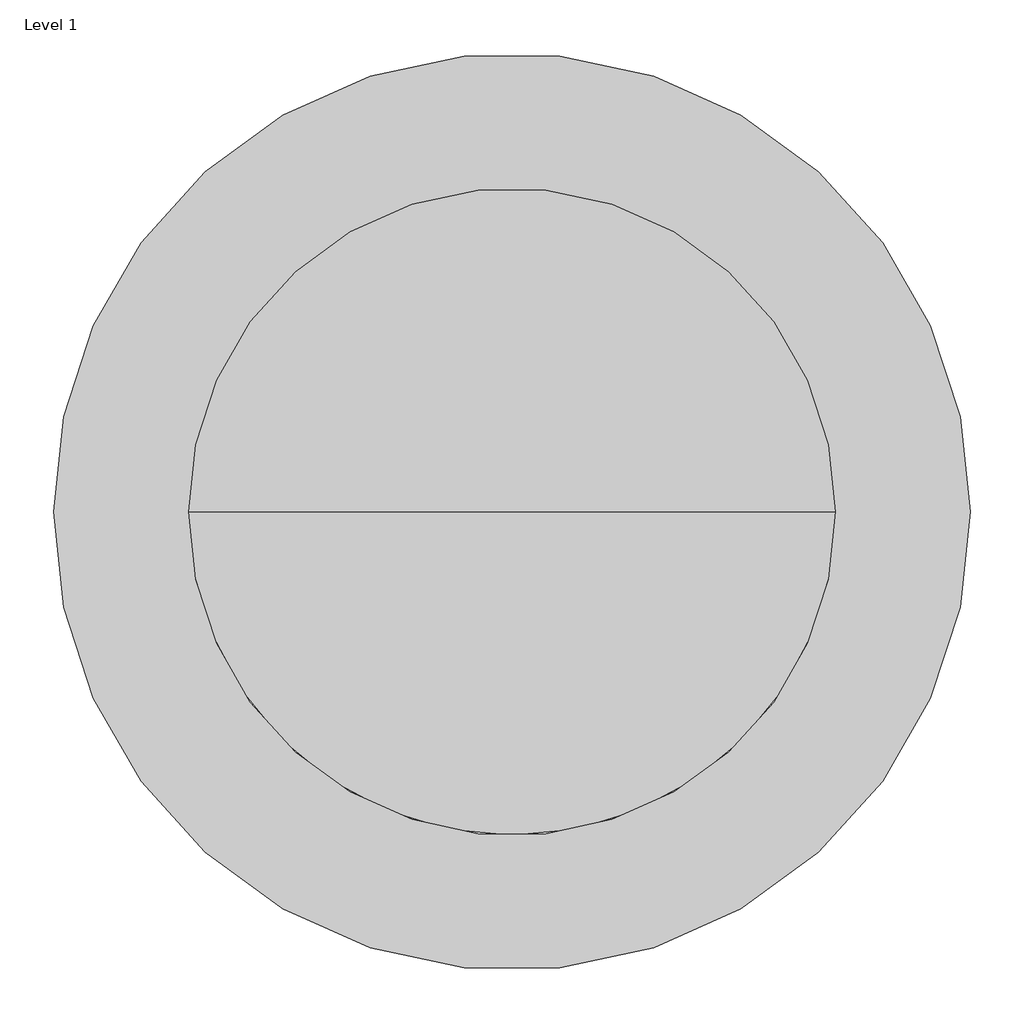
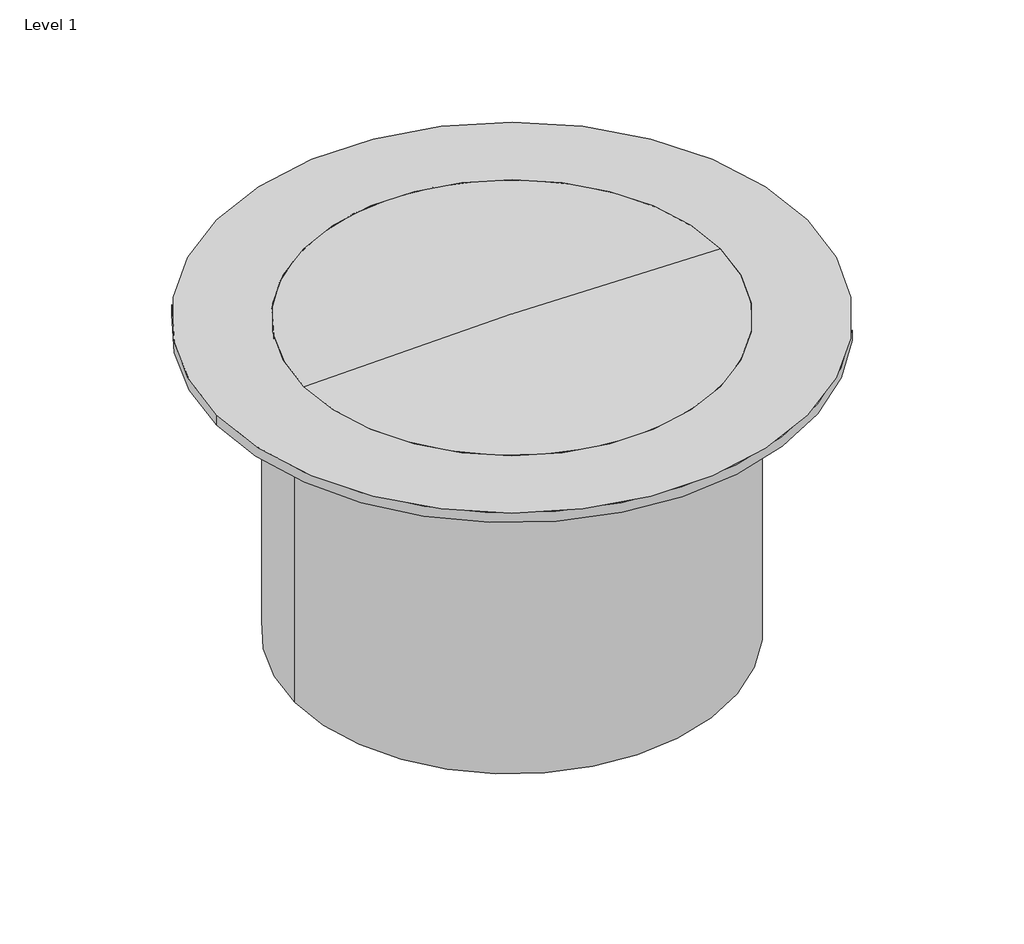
# One storey: 1 proxy.
"""IFC4 building model written with IfcOpenShell, lengths in millimetres."""

from ifc_helpers import new_model, si_unit, origin, place, context, project, spatial, transform, mapped, element, save
from components import specialty_equipment_5184973a

model = new_model("IFC4")

# Units and contexts
model_context = context("Model", 3, world=origin())
ifc_project = project(units=[si_unit("LENGTHUNIT", "METRE", prefix="MILLI")], contexts=[model_context])

# Site, building, storey
site = spatial("IfcSite", under=ifc_project)
building = spatial("IfcBuilding", under=site)
storey = spatial("IfcBuildingStorey", under=building, Name="Level 1", Elevation=2010.0)

# Proxy
placement = place(None, origin())
specialty_equipment_shape = specialty_equipment_5184973a(model_context)
element("IfcBuildingElementProxy", 1, Name="GRAF Tele Dome 600 Maxi : 600 Maxi", ObjectType="GRAF Tele Dome 600 Maxi : 600 Maxi", at=placement, inside=storey, context=model_context, shape_type="MappedRepresentation", body=[
    mapped(specialty_equipment_shape, transform((5829.8797995, 9449.0232018, 2310.0), x_axis=(1.0, 0.0, 0.0), y_axis=(0.0, 1.0, 0.0), z_axis=(0.0, 0.0, 1.0))),
])

save(model, "model.ifc")
